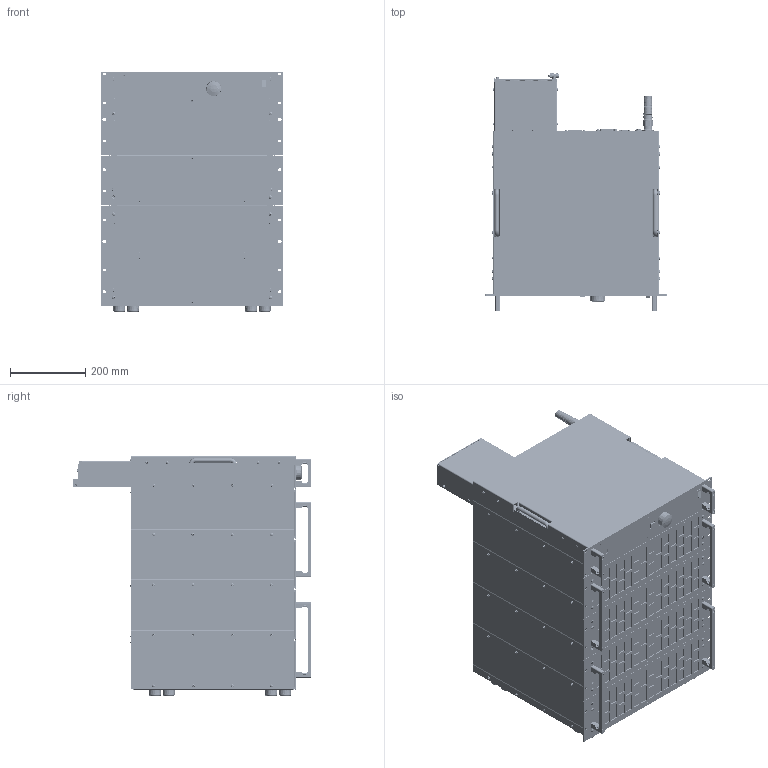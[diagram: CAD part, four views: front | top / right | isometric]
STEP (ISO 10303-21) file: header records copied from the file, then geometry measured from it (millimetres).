
FILE_DESCRIPTION(('STEP AP214'),'1');
FILE_NAME('QL_M43_19Z_14HE_FKS25_10_SM10_3D_01.step','2022-03-15T07:59:33',(' '),(' '),'Spatial InterOp 3D',' ',' ');
FILE_SCHEMA(('AUTOMOTIVE_DESIGN { 1 0 10303 214 1 1 1 1 }'));
Length unit declared in the file: millimetre
Products named in the file (49): 2121_Steuerteil_modular_Seitenteil_links_3D_02; 2122_Steuerteil_modular_Seitenteil_rechts_3D_02; A$C5EF2ED09; 3xM2.5_5x5x12; AutoCreatedBlock_4631; A$C6092449D; Frontplatte_5HE_Steuerteil_mit_Einbauten_3D; A$C60925E47; A$C60A76697; 2257_QL_IO Panel Standard_3D_01; 2084_IO-Port Abdeckung_3D_01; DIN 7985-A; DIN 933xM10 X 1.5x35; DIN 125-AxM10x0; DIN 127-BxM10; DIN 980xM10 X 1.0x0; Eingansschienen_CU25X10_3D; DIN 7985-AxM4 X 0.7x5; SAB_QL-5; *U285; *U286; *U287; *U288; *U289; *U290; *U291; *U292; AutoCreatedBlock_4663; 3HE_Leistungsteil_mit_Gummifüssen_3D_01; *U404; *U405; *U406; *U415; AutoCreatedBlock_4681; 2246_QL Rückwand Steuerteil 5HE_mit_Einbauten_3D_01; *U305; *U306; *U307; AutoCreatedBlock_4707; 3HE_Leistungsteil_3D_01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
Assembly tree (179 placements, depth 3):
  (unnamed)
    2121_Steuerteil_modular_Seitenteil_links_3D_02
    2122_Steuerteil_modular_Seitenteil_rechts_3D_02
    A$C5EF2ED09
      3xM2.5_5x5x12  x2
      AutoCreatedBlock_4631
    A$C6092449D
    Frontplatte_5HE_Steuerteil_mit_Einbauten_3D
    A$C60925E47
    A$C60A76697
    2257_QL_IO Panel Standard_3D_01
    2084_IO-Port Abdeckung_3D_01  x2
    DIN 7985-A  x17
    DIN 7985-A  x9
    DIN 933xM10 X 1.5x35  x2
    DIN 125-AxM10x0  x4
    DIN 127-BxM10  x2
    DIN 980xM10 X 1.0x0  x2
    Eingansschienen_CU25X10_3D
    DIN 7985-AxM4 X 0.7x5  x26
    SAB_QL-5
      *U285
      *U286  x2
      *U287  x3
      *U288  x2
      *U289  x8
      *U290  x4
      *U291  x2
      *U292  x2
      AutoCreatedBlock_4663
    3HE_Leistungsteil_mit_Gummifüssen_3D_01
      *U404  x10
      *U405  x6
      *U406  x6
      *U415  x6
      AutoCreatedBlock_4681
    2246_QL Rückwand Steuerteil 5HE_mit_Einbauten_3D_01
      *U305
      *U306  x2
      *U307  x3
      AutoCreatedBlock_4707
    3HE_Leistungsteil_3D_01  x3
      *U420
      *U421
      *U422
      AutoCreatedBlock_4715
    DIN 966-A  x7
    BG439_mit_MT2345_3D_01
    AutoCreatedBlock_4619
Bounding box: 482.61 x 630.75 x 637.92 mm (x, y, z)
Volume: 50972633 mm3; surface area: 7542542.1 mm2
Topology: 515 solids, 1613 shells, 35701 faces, 92786 edges, 59676 vertices
Faces by surface type: plane 16409, cone 12659, cylinder 5475, torus 507, sphere 362, bspline 273, extrusion 16
Entity records: 929034 total; most frequent: CARTESIAN_POINT 167761, DIRECTION 122510, ORIENTED_EDGE 114912, EDGE_CURVE 58847, AXIS2_PLACEMENT_3D 42025, VECTOR 38460, LINE 38444, VERTEX_POINT 37285
